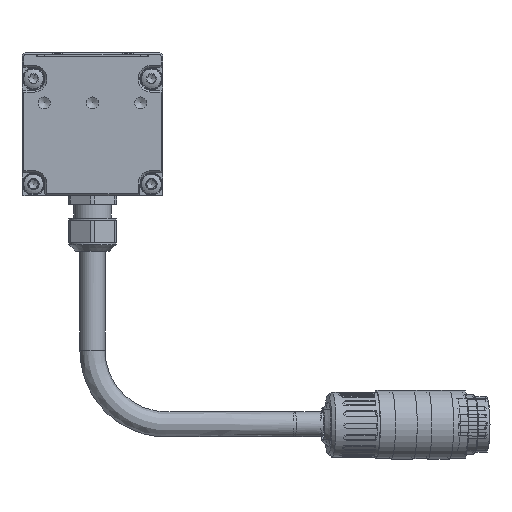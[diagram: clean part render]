
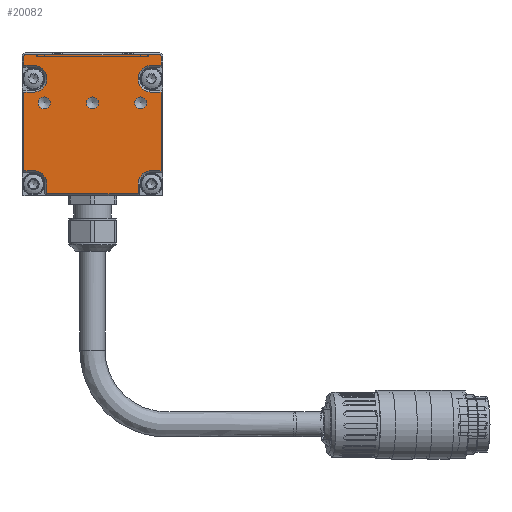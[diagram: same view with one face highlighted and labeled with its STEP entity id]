
A CAD part, left-side view. The second image highlights one B-rep face of the part: STEP entity #20082.
In plain terms, the highlighted planar face has unit normal (-1, 0, 0).
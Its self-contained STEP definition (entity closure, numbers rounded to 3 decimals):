
#880=LINE('',#27913,#1882);
#882=LINE('',#27917,#1884);
#886=LINE('',#27925,#1888);
#889=LINE('',#27931,#1891);
#891=LINE('',#27936,#1893);
#895=LINE('',#27944,#1897);
#897=LINE('',#27948,#1899);
#901=LINE('',#27957,#1903);
#903=LINE('',#27962,#1905);
#906=LINE('',#27970,#1908);
#909=LINE('',#27976,#1911);
#912=LINE('',#27984,#1914);
#916=LINE('',#27992,#1918);
#919=LINE('',#27999,#1921);
#1882=VECTOR('',#23214,1000.);
#1884=VECTOR('',#23218,1000.);
#1888=VECTOR('',#23224,1000.);
#1891=VECTOR('',#23229,1000.);
#1893=VECTOR('',#23235,1000.);
#1897=VECTOR('',#23241,1000.);
#1899=VECTOR('',#23247,1000.);
#1903=VECTOR('',#23257,1000.);
#1905=VECTOR('',#23265,1000.);
#1908=VECTOR('',#23274,1000.);
#1911=VECTOR('',#23283,1000.);
#1914=VECTOR('',#23292,1000.);
#1918=VECTOR('',#23302,1000.);
#1921=VECTOR('',#23311,1000.);
#2682=PLANE('',#21147);
#3923=ORIENTED_EDGE('',*,*,#7674,.T.);
#3924=ORIENTED_EDGE('',*,*,#7675,.T.);
#3925=ORIENTED_EDGE('',*,*,#7676,.T.);
#3926=ORIENTED_EDGE('',*,*,#7648,.T.);
#3927=ORIENTED_EDGE('',*,*,#7645,.T.);
#3928=ORIENTED_EDGE('',*,*,#7639,.T.);
#3929=ORIENTED_EDGE('',*,*,#7656,.T.);
#3930=ORIENTED_EDGE('',*,*,#7654,.T.);
#3931=ORIENTED_EDGE('',*,*,#7652,.T.);
#3932=ORIENTED_EDGE('',*,*,#7630,.T.);
#3933=ORIENTED_EDGE('',*,*,#7663,.T.);
#3934=ORIENTED_EDGE('',*,*,#7661,.T.);
#3935=ORIENTED_EDGE('',*,*,#7659,.T.);
#3936=ORIENTED_EDGE('',*,*,#7628,.T.);
#3937=ORIENTED_EDGE('',*,*,#7673,.F.);
#3938=ORIENTED_EDGE('',*,*,#7643,.T.);
#3939=ORIENTED_EDGE('',*,*,#7672,.F.);
#3940=ORIENTED_EDGE('',*,*,#7637,.T.);
#3941=ORIENTED_EDGE('',*,*,#7671,.T.);
#3942=ORIENTED_EDGE('',*,*,#7669,.T.);
#3943=ORIENTED_EDGE('',*,*,#7667,.T.);
#3944=ORIENTED_EDGE('',*,*,#7634,.T.);
#3945=ORIENTED_EDGE('',*,*,#7650,.T.);
#7628=EDGE_CURVE('',#9566,#9567,#880,.T.);
#7630=EDGE_CURVE('',#9569,#9568,#882,.T.);
#7634=EDGE_CURVE('',#9570,#9571,#886,.T.);
#7637=EDGE_CURVE('',#9572,#9573,#889,.T.);
#7639=EDGE_CURVE('',#9575,#9574,#891,.T.);
#7643=EDGE_CURVE('',#9576,#9577,#895,.T.);
#7645=EDGE_CURVE('',#9578,#9575,#897,.T.);
#7648=EDGE_CURVE('',#9579,#9578,#10697,.T.);
#7650=EDGE_CURVE('',#9571,#9579,#901,.T.);
#7652=EDGE_CURVE('',#9580,#9569,#903,.T.);
#7654=EDGE_CURVE('',#9581,#9580,#10698,.T.);
#7656=EDGE_CURVE('',#9574,#9581,#906,.T.);
#7659=EDGE_CURVE('',#9582,#9566,#909,.T.);
#7661=EDGE_CURVE('',#9583,#9582,#10699,.T.);
#7663=EDGE_CURVE('',#9568,#9583,#912,.T.);
#7667=EDGE_CURVE('',#9584,#9570,#916,.T.);
#7669=EDGE_CURVE('',#9585,#9584,#10700,.T.);
#7671=EDGE_CURVE('',#9573,#9585,#919,.T.);
#7672=EDGE_CURVE('',#9572,#9577,#10701,.T.);
#7673=EDGE_CURVE('',#9576,#9567,#10702,.T.);
#7674=EDGE_CURVE('',#9586,#9586,#10703,.T.);
#7675=EDGE_CURVE('',#9587,#9587,#10704,.T.);
#7676=EDGE_CURVE('',#9588,#9588,#10705,.T.);
#9566=VERTEX_POINT('',#27910);
#9567=VERTEX_POINT('',#27912);
#9568=VERTEX_POINT('',#27916);
#9569=VERTEX_POINT('',#27918);
#9570=VERTEX_POINT('',#27922);
#9571=VERTEX_POINT('',#27924);
#9572=VERTEX_POINT('',#27928);
#9573=VERTEX_POINT('',#27930);
#9574=VERTEX_POINT('',#27935);
#9575=VERTEX_POINT('',#27937);
#9576=VERTEX_POINT('',#27941);
#9577=VERTEX_POINT('',#27943);
#9578=VERTEX_POINT('',#27949);
#9579=VERTEX_POINT('',#27953);
#9580=VERTEX_POINT('',#27963);
#9581=VERTEX_POINT('',#27967);
#9582=VERTEX_POINT('',#27977);
#9583=VERTEX_POINT('',#27981);
#9584=VERTEX_POINT('',#27991);
#9585=VERTEX_POINT('',#27995);
#9586=VERTEX_POINT('',#28007);
#9587=VERTEX_POINT('',#28009);
#9588=VERTEX_POINT('',#28011);
#10697=CIRCLE('',#21122,3.6);
#10698=CIRCLE('',#21128,3.6);
#10699=CIRCLE('',#21134,3.6);
#10700=CIRCLE('',#21140,3.6);
#10701=CIRCLE('',#21144,0.5);
#10702=CIRCLE('',#21146,0.5);
#10703=CIRCLE('',#21148,1.621);
#10704=CIRCLE('',#21149,1.621);
#10705=CIRCLE('',#21150,1.621);
#11388=EDGE_LOOP('',(#3923));
#11389=EDGE_LOOP('',(#3924));
#11390=EDGE_LOOP('',(#3925));
#11391=EDGE_LOOP('',(#3926,#3927,#3928,#3929,#3930,#3931,#3932,#3933,#3934,
#3935,#3936,#3937,#3938,#3939,#3940,#3941,#3942,#3943,#3944,#3945));
#12478=FACE_BOUND('',#11388,.T.);
#12479=FACE_BOUND('',#11389,.T.);
#12480=FACE_BOUND('',#11390,.T.);
#12481=FACE_BOUND('',#11391,.T.);
#20082=ADVANCED_FACE('',(#12478,#12479,#12480,#12481),#2682,.F.);
#21122=AXIS2_PLACEMENT_3D('',#27954,#23252,#23253);
#21128=AXIS2_PLACEMENT_3D('',#27966,#23269,#23270);
#21134=AXIS2_PLACEMENT_3D('',#27980,#23287,#23288);
#21140=AXIS2_PLACEMENT_3D('',#27996,#23306,#23307);
#21144=AXIS2_PLACEMENT_3D('',#28002,#23316,#23317);
#21146=AXIS2_PLACEMENT_3D('',#28004,#23320,#23321);
#21147=AXIS2_PLACEMENT_3D('',#28005,#23322,#23323);
#21148=AXIS2_PLACEMENT_3D('',#28006,#23324,#23325);
#21149=AXIS2_PLACEMENT_3D('',#28008,#23326,#23327);
#21150=AXIS2_PLACEMENT_3D('',#28010,#23328,#23329);
#23214=DIRECTION('',(0.,0.,1.));
#23218=DIRECTION('',(0.,0.,1.));
#23224=DIRECTION('',(0.,0.,-1.));
#23229=DIRECTION('',(0.,0.,-1.));
#23235=DIRECTION('',(0.,-1.,0.));
#23241=DIRECTION('',(0.,1.,0.));
#23247=DIRECTION('',(0.,0.,-1.));
#23252=DIRECTION('',(1.,0.,0.));
#23253=DIRECTION('',(0.,1.,0.));
#23257=DIRECTION('',(0.,-1.,0.));
#23265=DIRECTION('',(0.,-1.,0.));
#23269=DIRECTION('',(1.,0.,0.));
#23270=DIRECTION('',(0.,1.,0.));
#23274=DIRECTION('',(0.,0.,1.));
#23283=DIRECTION('',(0.,-1.,0.));
#23287=DIRECTION('',(1.,0.,0.));
#23288=DIRECTION('',(0.,1.,0.));
#23292=DIRECTION('',(0.,1.,0.));
#23302=DIRECTION('',(0.,1.,0.));
#23306=DIRECTION('',(1.,0.,0.));
#23307=DIRECTION('',(0.,1.,0.));
#23311=DIRECTION('',(0.,-1.,0.));
#23316=DIRECTION('',(1.,0.,0.));
#23317=DIRECTION('',(0.,1.,0.));
#23320=DIRECTION('',(1.,0.,0.));
#23321=DIRECTION('',(0.,1.,0.));
#23322=DIRECTION('',(1.,0.,0.));
#23323=DIRECTION('',(0.,1.,0.));
#23324=DIRECTION('',(1.,0.,0.));
#23325=DIRECTION('',(0.,-1.,0.));
#23326=DIRECTION('',(1.,0.,0.));
#23327=DIRECTION('',(0.,-1.,0.));
#23328=DIRECTION('',(1.,0.,0.));
#23329=DIRECTION('',(0.,-1.,0.));
#27910=CARTESIAN_POINT('',(-1514.998,-18.5,35.119));
#27912=CARTESIAN_POINT('',(-1514.998,-18.5,37.519));
#27913=CARTESIAN_POINT('',(-1514.998,-18.5,0.019));
#27916=CARTESIAN_POINT('',(-1514.998,-18.5,27.919));
#27917=CARTESIAN_POINT('',(-1514.998,-18.5,0.019));
#27918=CARTESIAN_POINT('',(-1514.998,-18.5,6.719));
#27922=CARTESIAN_POINT('',(-1514.998,18.5,27.919));
#27924=CARTESIAN_POINT('',(-1514.998,18.5,6.719));
#27925=CARTESIAN_POINT('',(-1514.998,18.5,0.019));
#27928=CARTESIAN_POINT('',(-1514.998,18.5,37.519));
#27930=CARTESIAN_POINT('',(-1514.998,18.5,35.119));
#27931=CARTESIAN_POINT('',(-1514.998,18.5,0.019));
#27935=CARTESIAN_POINT('',(-1514.998,-12.3,0.519));
#27936=CARTESIAN_POINT('',(-1514.998,-12.3,0.519));
#27937=CARTESIAN_POINT('',(-1514.998,12.3,0.519));
#27941=CARTESIAN_POINT('',(-1514.998,-18.,38.019));
#27943=CARTESIAN_POINT('',(-1514.998,18.,38.019));
#27944=CARTESIAN_POINT('',(-1514.998,-19.,38.019));
#27948=CARTESIAN_POINT('',(-1514.998,12.3,0.019));
#27949=CARTESIAN_POINT('',(-1514.998,12.3,3.119));
#27953=CARTESIAN_POINT('',(-1514.998,15.9,6.719));
#27954=CARTESIAN_POINT('',(-1514.998,15.9,3.119));
#27957=CARTESIAN_POINT('',(-1514.998,-19.,6.719));
#27962=CARTESIAN_POINT('',(-1514.998,-19.,6.719));
#27963=CARTESIAN_POINT('',(-1514.998,-15.9,6.719));
#27966=CARTESIAN_POINT('',(-1514.998,-15.9,3.119));
#27967=CARTESIAN_POINT('',(-1514.998,-12.3,3.119));
#27970=CARTESIAN_POINT('',(-1514.998,-12.3,0.019));
#27976=CARTESIAN_POINT('',(-1514.998,-19.,35.119));
#27977=CARTESIAN_POINT('',(-1514.998,-15.9,35.119));
#27980=CARTESIAN_POINT('',(-1514.998,-15.9,31.519));
#27981=CARTESIAN_POINT('',(-1514.998,-15.9,27.919));
#27984=CARTESIAN_POINT('',(-1514.998,-19.,27.919));
#27991=CARTESIAN_POINT('',(-1514.998,15.9,27.919));
#27992=CARTESIAN_POINT('',(-1514.998,-19.,27.919));
#27995=CARTESIAN_POINT('',(-1514.998,15.9,35.119));
#27996=CARTESIAN_POINT('',(-1514.998,15.9,31.519));
#27999=CARTESIAN_POINT('',(-1514.998,-19.,35.119));
#28002=CARTESIAN_POINT('',(-1514.998,18.,37.519));
#28004=CARTESIAN_POINT('',(-1514.998,-18.,37.519));
#28005=CARTESIAN_POINT('',(-1514.998,-19.,0.019));
#28006=CARTESIAN_POINT('',(-1514.998,13.,25.019));
#28007=CARTESIAN_POINT('',(-1514.998,11.379,25.019));
#28008=CARTESIAN_POINT('',(-1514.998,0.,25.019));
#28009=CARTESIAN_POINT('',(-1514.998,-1.621,25.019));
#28010=CARTESIAN_POINT('',(-1514.998,-13.,25.019));
#28011=CARTESIAN_POINT('',(-1514.998,-14.621,25.019));
